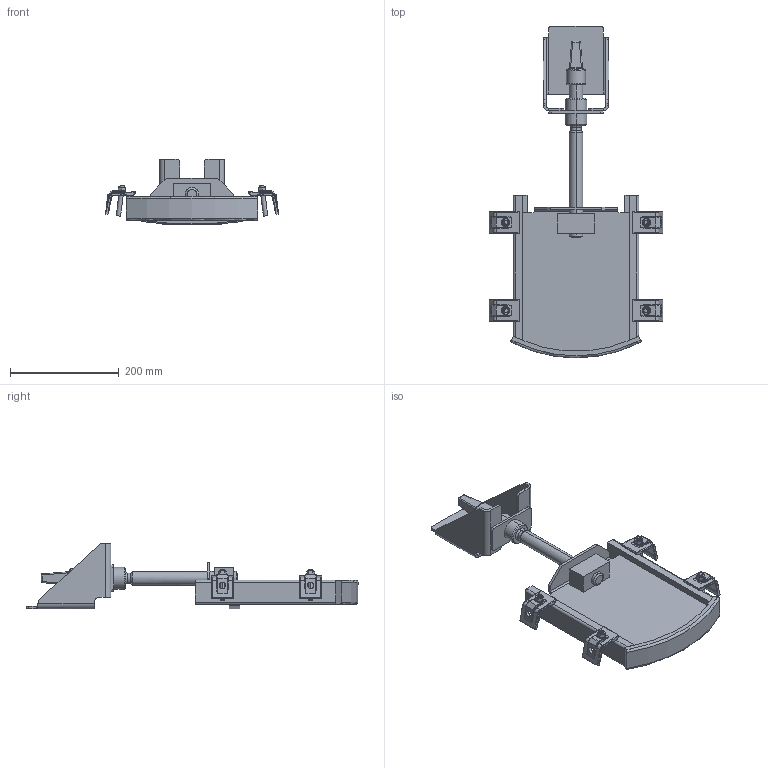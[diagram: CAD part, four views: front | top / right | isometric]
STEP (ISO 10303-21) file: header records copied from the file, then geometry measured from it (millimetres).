
FILE_DESCRIPTION (( 'STEP AP214' ), '1' );
FILE_NAME ('LW 150 Schacht1200 betoniert.STEP', '2022-05-19T08:33:32', ( '' ), ( '' ), 'SwSTEP 2.0', 'SolidWorks 2021', '' );
FILE_SCHEMA (( 'AUTOMOTIVE_DESIGN' ));
Length unit declared in the file: millimetre
Products named in the file (1): LW 150 Schacht1200 betoniert
Bounding box: 319.54 x 610 x 121 mm (x, y, z)
Volume: 1538896.2 mm3; surface area: 418487.7 mm2
Topology: 1 solids, 5 shells, 773 faces, 1825 edges, 1028 vertices
Faces by surface type: cylinder 297, plane 244, cone 62, sphere 60, torus 56, bspline 54
Entity records: 32225 total; most frequent: CARTESIAN_POINT 6711, DIRECTION 3661, ORIENTED_EDGE 3530, EDGE_CURVE 1765, AXIS2_PLACEMENT_3D 1438, VERTEX_POINT 1020, EDGE_LOOP 817, LINE 785
